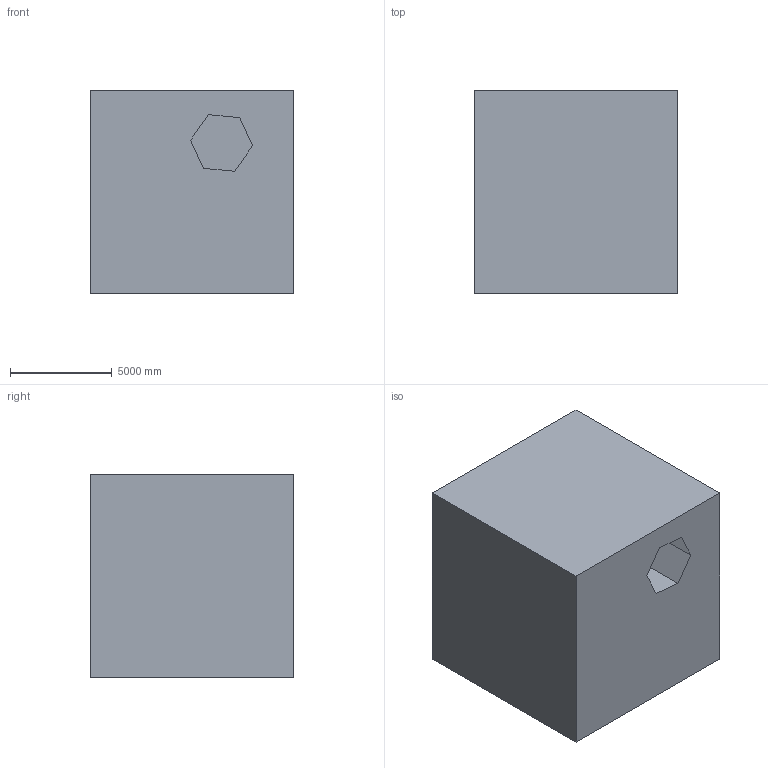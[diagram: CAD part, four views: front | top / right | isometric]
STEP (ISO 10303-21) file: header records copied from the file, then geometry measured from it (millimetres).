
FILE_DESCRIPTION (( 'STEP AP203' ), '1' );
FILE_NAME ('1062.STEP', '2022-08-18T12:36:45', ( 'user' ), ( '' ), 'SwSTEP 2.0', 'SolidWorks 2021', '' );
FILE_SCHEMA (( 'CONFIG_CONTROL_DESIGN' ));
Length unit declared in the file: centimetre
Products named in the file (1): 1062
Bounding box: 10000 x 10000 x 10000 mm (x, y, z)
Volume: 931706274339.6 mm3; surface area: 704728740.5 mm2
Topology: 1 solids, 1 shells, 18 faces, 42 edges, 28 vertices
Faces by surface type: plane 18
Entity records: 583 total; most frequent: CARTESIAN_POINT 89, ORIENTED_EDGE 84, DIRECTION 80, VECTOR 42, LINE 42, EDGE_CURVE 42, VERTEX_POINT 28, EDGE_LOOP 20
